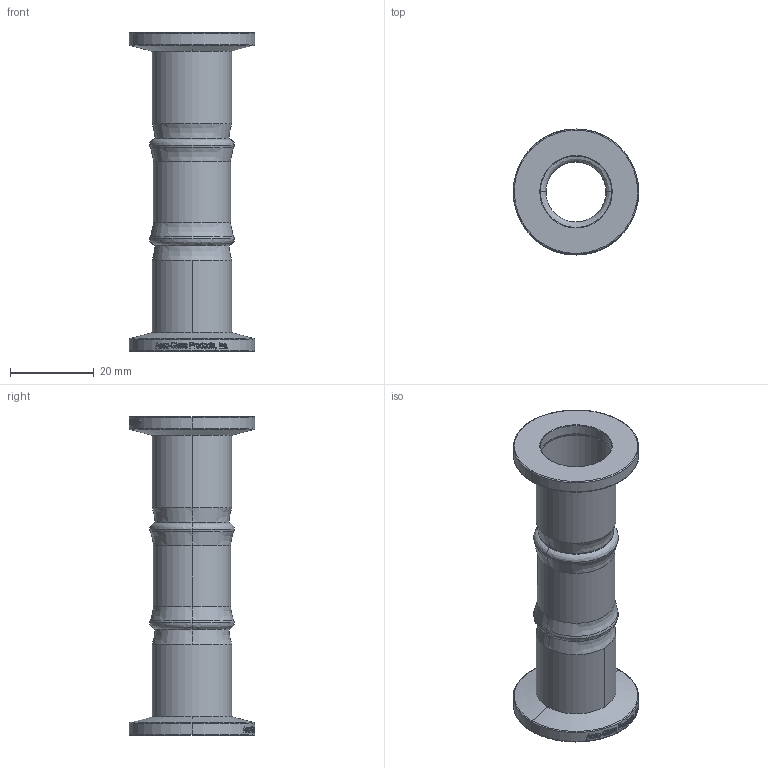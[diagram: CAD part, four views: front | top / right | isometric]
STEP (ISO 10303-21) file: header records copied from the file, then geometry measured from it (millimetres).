
FILE_DESCRIPTION (( 'STEP AP203' ), '1' );
FILE_NAME ('211059.stp', '2018-05-17T17:29:40', ( '' ), ( '' ), 'SwSTEP 2.0', 'SolidWorks 2012', '' );
FILE_SCHEMA (( 'CONFIG_CONTROL_DESIGN' ));
Length unit declared in the file: centimetre
Products named in the file (1): 211059
Bounding box: 29.97 x 29.97 x 76.2 mm (x, y, z)
Volume: 7742.4 mm3; surface area: 10571.6 mm2
Topology: 1 solids, 1 shells, 645 faces, 1695 edges, 1108 vertices
Faces by surface type: bspline 314, plane 230, cylinder 93, cone 8
Entity records: 67834 total; most frequent: CARTESIAN_POINT 54211, ORIENTED_EDGE 3390, DIRECTION 1837, EDGE_CURVE 1695, VERTEX_POINT 1108, B_SPLINE_CURVE_WITH_KNOTS 738, EDGE_LOOP 703, ADVANCED_FACE 645
